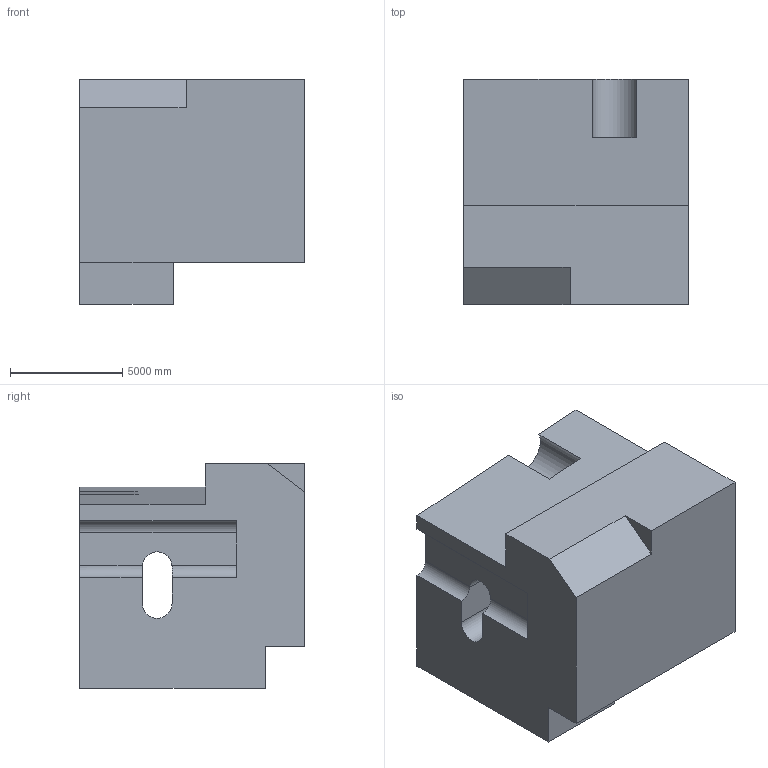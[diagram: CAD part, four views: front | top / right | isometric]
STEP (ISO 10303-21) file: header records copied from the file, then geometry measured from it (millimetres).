
FILE_DESCRIPTION (( 'STEP AP203' ), '1' );
FILE_NAME ('1859.STEP', '2022-08-19T13:37:41', ( 'user' ), ( '' ), 'SwSTEP 2.0', 'SolidWorks 2021', '' );
FILE_SCHEMA (( 'CONFIG_CONTROL_DESIGN' ));
Length unit declared in the file: centimetre
Products named in the file (1): 1859
Bounding box: 10000 x 10000 x 10000 mm (x, y, z)
Volume: 711166929839.7 mm3; surface area: 635493307.3 mm2
Topology: 1 solids, 1 shells, 33 faces, 92 edges, 61 vertices
Faces by surface type: plane 24, cylinder 9
Entity records: 1137 total; most frequent: CARTESIAN_POINT 199, ORIENTED_EDGE 184, DIRECTION 172, EDGE_CURVE 92, VECTOR 72, LINE 72, VERTEX_POINT 61, AXIS2_PLACEMENT_3D 50
